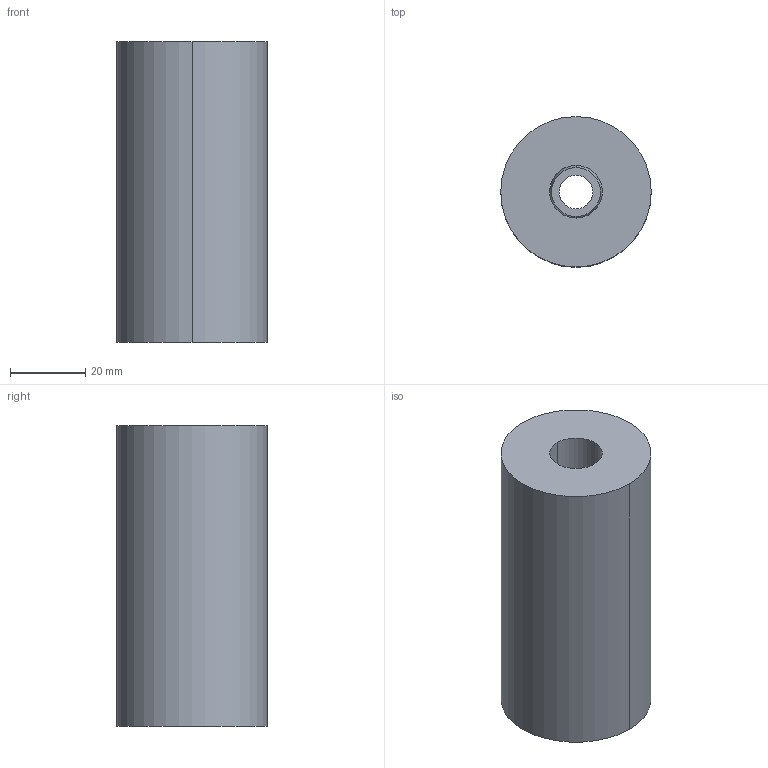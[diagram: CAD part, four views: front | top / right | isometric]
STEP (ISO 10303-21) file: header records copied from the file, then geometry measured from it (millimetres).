
FILE_DESCRIPTION(/* description */ (''),/* implementation_level */ '2;1');
FILE_NAME(/* name */ '3d_esu40-80_07035_r00.stp',/* time_stamp */ '2011-01-10T14:15:39+09:00',/* author */ ('MISUMI'),/* organization */ (''),/* preprocessor_version */ 'ST-DEVELOPER v11',/* originating_system */ 'UGS - NX 5.0',/* authorisation */ '');
FILE_SCHEMA (('CONFIG_CONTROL_DESIGN'));
Length unit declared in the file: millimetre
Products named in the file (1): 3d_esu40-80_07035_r00
Bounding box: 40 x 40 x 80 mm (x, y, z)
Volume: 92424.3 mm3; surface area: 18330.8 mm2
Topology: 2 solids, 2 shells, 18 faces, 36 edges, 22 vertices
Faces by surface type: cylinder 10, plane 4, cone 4
Entity records: 566 total; most frequent: DIRECTION 96, CARTESIAN_POINT 77, ORIENTED_EDGE 72, AXIS2_PLACEMENT_3D 41, EDGE_CURVE 36, EDGE_LOOP 22, CIRCLE 22, VERTEX_POINT 22
